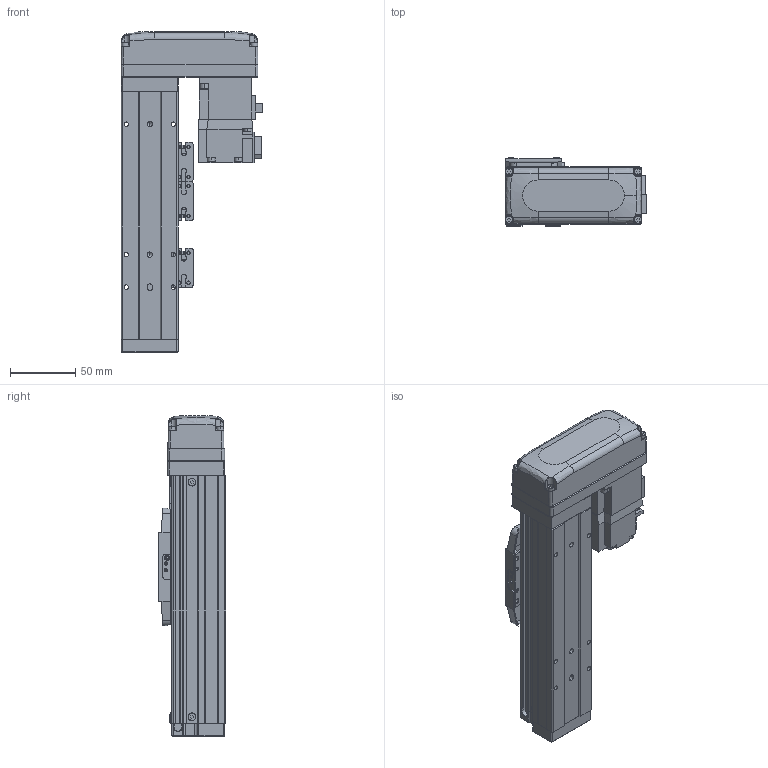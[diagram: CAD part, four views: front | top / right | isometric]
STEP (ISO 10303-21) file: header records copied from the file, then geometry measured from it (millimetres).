
FILE_DESCRIPTION (( 'STEP AP203' ), '1' );
FILE_NAME ('BTH40-50-BL-M05-C4.step', '2021-12-16T00:15:41', ( '微软用户' ), ( '微软中国' ), 'SwSTEP 2.0', 'SolidWorks 2020', '' );
FILE_SCHEMA (( 'CONFIG_CONTROL_DESIGN' ));
Length unit declared in the file: millimetre
Products named in the file (19): BTH50-023; BTH40-013; BTH-M3X5X6; BTH50-024; HG-KR13; GBT70.1-2000 M3×16; GBT 70.1-M3℅6; GBT 70.3-M3℅6; GBT96.1-2002 3×0.8; BTH40-027-1; BTH40-022; BTH50-026; BTH40-001-50_BTH40-001-50; GBT 70.1-M2.5×6; BTH40-50-BL-M05-C4; BTH40-003; BTH50-028; BTH40-004; BTH40-006
Assembly tree (47 placements, depth 2):
  BTH40-50-BL-M05-C4
    BTH40-001-50_BTH40-001-50
    BTH40-003
    BTH40-006
    BTH-M3X5X6  x8
    GBT70.1-2000 M3×16  x4
    BTH50-028  x2
    BTH50-023  x3
    BTH50-024  x3
    GBT 70.1-M3℅6  x6
    GBT96.1-2002 3×0.8  x6
    BTH40-022
    GBT 70.1-M2.5×6  x2
    BTH40-004
    BTH40-013
    HG-KR13
    GBT 70.3-M3℅6  x4
    BTH40-027-1
    BTH50-026
Bounding box: 108.8 x 52 x 246 mm (x, y, z)
Volume: 614723.5 mm3; surface area: 136492.9 mm2
Topology: 49 solids, 49 shells, 1967 faces, 4611 edges, 2834 vertices
Faces by surface type: plane 1052, cylinder 479, cone 270, torus 128, bspline 34, sphere 4
Entity records: 39099 total; most frequent: CARTESIAN_POINT 7498, DIRECTION 6112, ORIENTED_EDGE 5868, EDGE_CURVE 2934, AXIS2_PLACEMENT_3D 2083, VECTOR 1946, LINE 1946, VERTEX_POINT 1821
